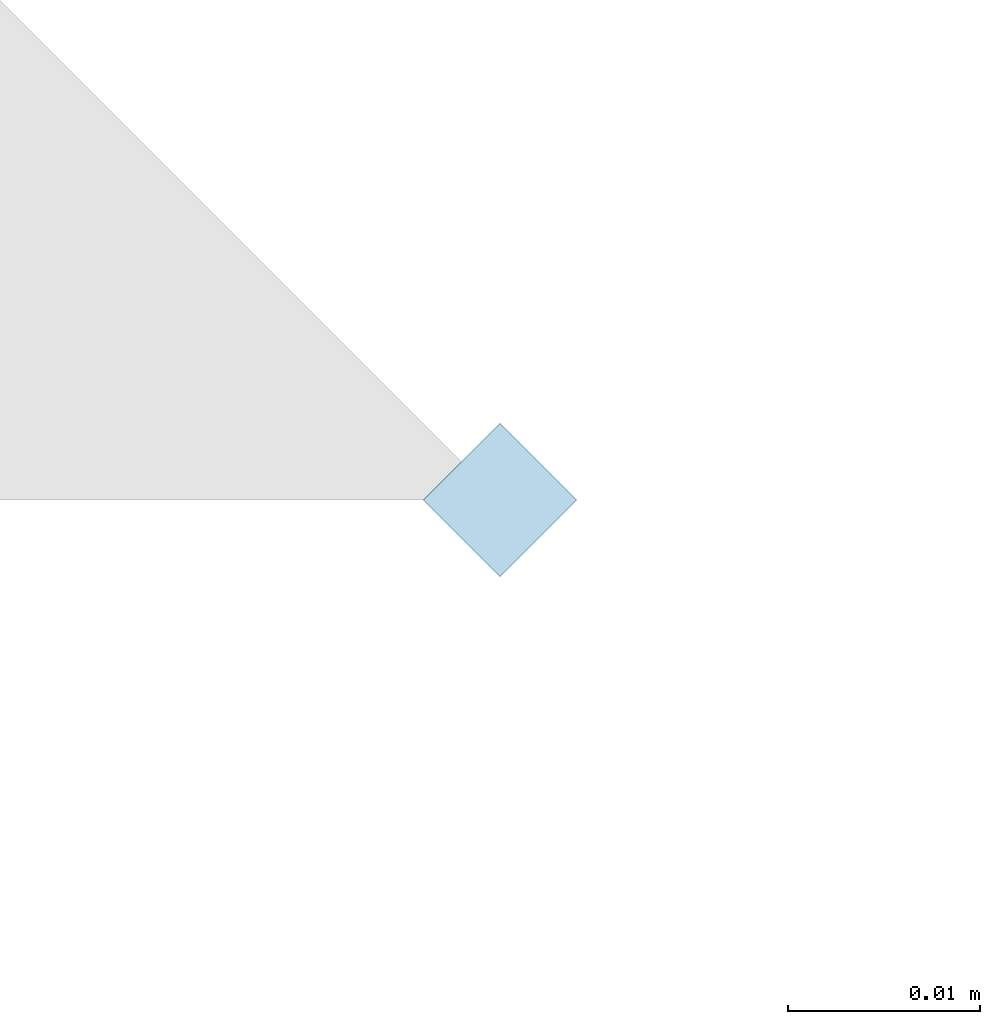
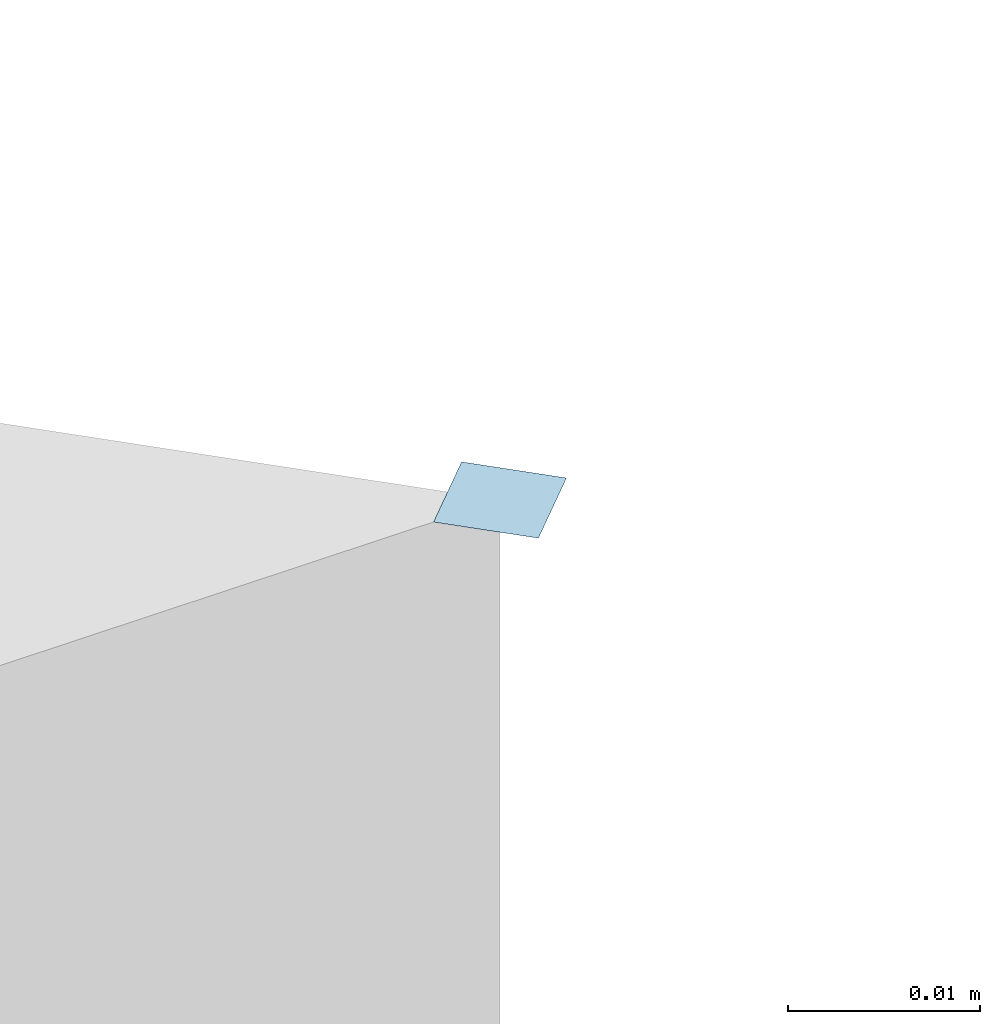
# One storey, part 4 of 5: 1 slab.
"""IFC2X3 building model written with IfcOpenShell, lengths in millimetres."""

from ifc_helpers import new_model, entity, si_unit, converted_unit, derived_unit, direction, origin, place, context, subcontext, project, spatial, face_set, surface_model, material, type_object, element, save


model = new_model("IFC2X3")

# Units and contexts
model_context = context("Model", 3, precision=0.01, world=origin(), true_north=direction((6.123031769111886e-17, 1.0)))
body_context = subcontext(model_context, "Body", "Model", "MODEL_VIEW")
ifc_project = project(units=[si_unit("LENGTHUNIT", "METRE", prefix="MILLI"), si_unit("AREAUNIT", "SQUARE_METRE"), si_unit("VOLUMEUNIT", "CUBIC_METRE"), converted_unit("PLANEANGLEUNIT", "DEGREE", entity("IfcRatioMeasure", 0.017453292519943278), si_unit("PLANEANGLEUNIT", "RADIAN"), dimensions=[0, 0, 0, 0, 0, 0, 0]), si_unit("MASSUNIT", "GRAM", prefix="KILO"), derived_unit("MASSDENSITYUNIT", [(si_unit("MASSUNIT", "GRAM", prefix="KILO"), 1), (si_unit("LENGTHUNIT", "METRE"), -3)]), derived_unit("IONCONCENTRATIONUNIT", [(si_unit("MASSUNIT", "GRAM", prefix="KILO"), 1), (si_unit("LENGTHUNIT", "METRE"), -3)]), derived_unit("MOMENTOFINERTIAUNIT", [(si_unit("LENGTHUNIT", "METRE"), 4)]), si_unit("TIMEUNIT", "SECOND"), si_unit("FREQUENCYUNIT", "HERTZ"), si_unit("THERMODYNAMICTEMPERATUREUNIT", "DEGREE_CELSIUS"), derived_unit("THERMALTRANSMITTANCEUNIT", [(si_unit("MASSUNIT", "GRAM", prefix="KILO"), 1), (si_unit("THERMODYNAMICTEMPERATUREUNIT", "KELVIN"), -1), (si_unit("TIMEUNIT", "SECOND"), -3)]), derived_unit("THERMALCONDUCTANCEUNIT", [(si_unit("MASSUNIT", "GRAM", prefix="KILO"), 1), (si_unit("THERMODYNAMICTEMPERATUREUNIT", "KELVIN"), -1), (si_unit("TIMEUNIT", "SECOND"), -3), (si_unit("LENGTHUNIT", "METRE"), 1)]), derived_unit("VOLUMETRICFLOWRATEUNIT", [(si_unit("LENGTHUNIT", "METRE"), 3), (si_unit("TIMEUNIT", "SECOND"), -1)]), derived_unit("MASSFLOWRATEUNIT", [(si_unit("MASSUNIT", "GRAM", prefix="KILO"), 1), (si_unit("TIMEUNIT", "SECOND"), -1)]), derived_unit("ROTATIONALFREQUENCYUNIT", [(si_unit("TIMEUNIT", "SECOND"), -1)]), si_unit("ELECTRICCURRENTUNIT", "AMPERE"), si_unit("ELECTRICVOLTAGEUNIT", "VOLT"), si_unit("POWERUNIT", "WATT"), si_unit("FORCEUNIT", "NEWTON", prefix="KILO"), si_unit("ILLUMINANCEUNIT", "LUX"), si_unit("LUMINOUSFLUXUNIT", "LUMEN"), si_unit("LUMINOUSINTENSITYUNIT", "CANDELA"), derived_unit("USERDEFINED", [(si_unit("MASSUNIT", "GRAM", prefix="KILO"), -1), (si_unit("LENGTHUNIT", "METRE"), -2), (si_unit("TIMEUNIT", "SECOND"), 3), (si_unit("LUMINOUSFLUXUNIT", "LUMEN"), 1)]), derived_unit("USERDEFINED", [(si_unit("MASSUNIT", "GRAM", prefix="KILO"), 1), (si_unit("TIMEUNIT", "SECOND"), -3), (si_unit("LENGTHUNIT", "METRE"), 3), (si_unit("ELECTRICCURRENTUNIT", "AMPERE"), -2)]), derived_unit("SOUNDPOWERUNIT", [(si_unit("MASSUNIT", "GRAM", prefix="KILO"), 1), (si_unit("TIMEUNIT", "SECOND"), -3), (si_unit("LENGTHUNIT", "METRE"), 2)]), derived_unit("SOUNDPRESSUREUNIT", [(si_unit("MASSUNIT", "GRAM", prefix="KILO"), 1), (si_unit("LENGTHUNIT", "METRE"), -1), (si_unit("TIMEUNIT", "SECOND"), -2)]), derived_unit("LINEARVELOCITYUNIT", [(si_unit("LENGTHUNIT", "METRE"), 1), (si_unit("TIMEUNIT", "SECOND"), -1)]), si_unit("PRESSUREUNIT", "PASCAL"), derived_unit("USERDEFINED", [(si_unit("MASSUNIT", "GRAM", prefix="KILO"), 1), (si_unit("LENGTHUNIT", "METRE"), -2), (si_unit("TIMEUNIT", "SECOND"), -2)]), derived_unit("LINEARFORCEUNIT", [(si_unit("MASSUNIT", "GRAM", prefix="KILO"), 1), (si_unit("TIMEUNIT", "SECOND"), -2)]), derived_unit("PLANARFORCEUNIT", [(si_unit("MASSUNIT", "GRAM", prefix="KILO"), 1), (si_unit("LENGTHUNIT", "METRE"), -1), (si_unit("TIMEUNIT", "SECOND"), -2)]), derived_unit("SPECIFICHEATCAPACITYUNIT", [(si_unit("THERMODYNAMICTEMPERATUREUNIT", "KELVIN"), -1), (si_unit("LENGTHUNIT", "METRE"), 2), (si_unit("TIMEUNIT", "SECOND"), -2)]), derived_unit("HEATINGVALUEUNIT", [(si_unit("LENGTHUNIT", "METRE"), 2), (si_unit("TIMEUNIT", "SECOND"), -2)]), derived_unit("VAPORPERMEABILITYUNIT", [(si_unit("LENGTHUNIT", "METRE"), -1), (si_unit("TIMEUNIT", "SECOND"), 1)]), derived_unit("DYNAMICVISCOSITYUNIT", [(si_unit("MASSUNIT", "GRAM", prefix="KILO"), 1), (si_unit("TIMEUNIT", "SECOND"), -1), (si_unit("LENGTHUNIT", "METRE"), -1)]), derived_unit("THERMALEXPANSIONCOEFFICIENTUNIT", [(si_unit("THERMODYNAMICTEMPERATUREUNIT", "KELVIN"), -1)]), derived_unit("MODULUSOFELASTICITYUNIT", [(si_unit("MASSUNIT", "GRAM", prefix="KILO"), 1), (si_unit("LENGTHUNIT", "METRE"), -1), (si_unit("TIMEUNIT", "SECOND"), -2)]), derived_unit("ISOTHERMALMOISTURECAPACITYUNIT", [(si_unit("LENGTHUNIT", "METRE"), 3), (si_unit("MASSUNIT", "GRAM", prefix="KILO"), -1)]), derived_unit("MOISTUREDIFFUSIVITYUNIT", [(si_unit("TIMEUNIT", "SECOND"), -1), (si_unit("LENGTHUNIT", "METRE"), 2)])], contexts=[model_context])

# Site, building, storey
site_placement = place(None, origin())
site = spatial("IfcSite", under=ifc_project, at=site_placement, Name="IFCSITE", CompositionType="ELEMENT")
building_placement = place(site_placement, origin())
building = spatial("IfcBuilding", under=site, at=building_placement, CompositionType="ELEMENT")
storey_placement = place(building_placement, origin())
storey = spatial("IfcBuildingStorey", under=building, at=storey_placement, Name="Plan 01", CompositionType="ELEMENT", Elevation=0.0)

# Slab
ifc_material = material(Name="Survey Marker")
slab_type = type_object("IfcSlabType", Name="SurveyMarker:Custom", PredefinedType="BASESLAB", material=ifc_material)
slab_placement = place(storey_placement, origin())
element("IfcSlab", 1, at=slab_placement, inside=storey, type_object=slab_type, Name="SurveyMarker:Custom", ObjectType="SurveyMarker:Custom", PredefinedType="BASESLAB", context=body_context, shape_type="SurfaceModel", body=[
    surface_model("IfcFaceBasedSurfaceModel", [(0.0, 3.999999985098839, 0.0), (3.999999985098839, 0.0, 0.0), (0.0, -3.999999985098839, 0.0), (-3.999999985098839, 0.0, 0.0)], [face_set([[[0, 1, 2, 3]], [[2, 1, 0, 3]]])]),
])

save(model, "model.ifc")
